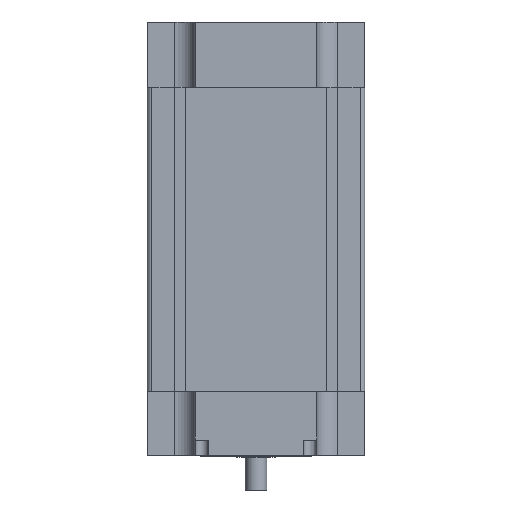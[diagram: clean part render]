
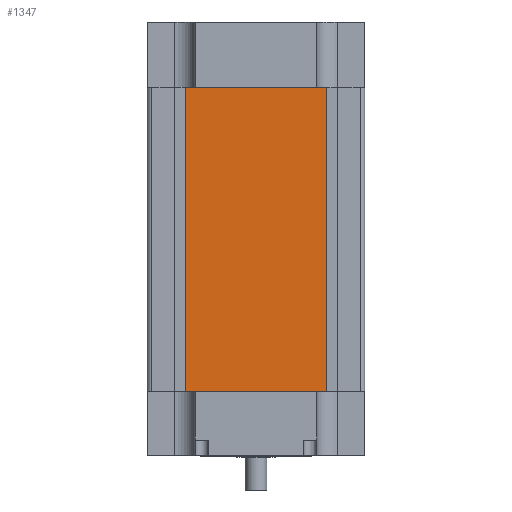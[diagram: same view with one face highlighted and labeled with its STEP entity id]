
A CAD part, front view. The second image highlights one B-rep face of the part: STEP entity #1347.
In plain terms, the highlighted planar face has unit normal (0, -1, 0).
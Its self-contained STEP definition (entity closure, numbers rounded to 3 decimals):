
#881 = VERTEX_POINT ( 'NONE', #4570 ) ;
#882 = VERTEX_POINT ( 'NONE', #4569 ) ;
#889 = EDGE_CURVE ( 'NONE', #881, #882, #4609, .T. ) ;
#1285 = EDGE_CURVE ( 'NONE', #1416, #881, #5308, .T. ) ;
#1288 = ORIENTED_EDGE ( 'NONE', *, *, #1346, .F. ) ;
#1346 = EDGE_CURVE ( 'NONE', #1409, #882, #5406, .T. ) ;
#1347 = ADVANCED_FACE ( 'NONE', ( #5444 ), #5449, .F. ) ;
#1349 = ORIENTED_EDGE ( 'NONE', *, *, #889, .T. ) ;
#1351 = ORIENTED_EDGE ( 'NONE', *, *, #1412, .F. ) ;
#1354 = ORIENTED_EDGE ( 'NONE', *, *, #1285, .T. ) ;
#1409 = VERTEX_POINT ( 'NONE', #5551 ) ;
#1412 = EDGE_CURVE ( 'NONE', #1416, #1409, #5525, .T. ) ;
#1416 = VERTEX_POINT ( 'NONE', #5589 ) ;
#3598 = EDGE_LOOP ( 'NONE', ( #1349, #1288, #1351, #1354 ) ) ;
#4569 = CARTESIAN_POINT ( 'NONE',  ( 65., -48.75, 0. ) ) ;
#4570 = CARTESIAN_POINT ( 'NONE',  ( -65., -48.75, 0. ) ) ;
#4606 = DIRECTION ( 'NONE',  ( 1., 0., 0. ) ) ;
#4607 = VECTOR ( 'NONE', #4606, 1000. ) ;
#4608 = CARTESIAN_POINT ( 'NONE',  ( -65., -48.75, 0. ) ) ;
#4609 = LINE ( 'NONE', #4608, #4607 ) ;
#5307 = CARTESIAN_POINT ( 'NONE',  ( -65., -48.75, 280. ) ) ;
#5308 = LINE ( 'NONE', #5307, #5363 ) ;
#5362 = DIRECTION ( 'NONE',  ( 0., 0., -1. ) ) ;
#5363 = VECTOR ( 'NONE', #5362, 1000. ) ;
#5406 = LINE ( 'NONE', #5442, #5441 ) ;
#5434 = DIRECTION ( 'NONE',  ( -1., 0., 0. ) ) ;
#5440 = DIRECTION ( 'NONE',  ( 0., 0., -1. ) ) ;
#5441 = VECTOR ( 'NONE', #5440, 1000. ) ;
#5442 = CARTESIAN_POINT ( 'NONE',  ( 65., -48.75, 280. ) ) ;
#5443 = DIRECTION ( 'NONE',  ( 0., 1., 0. ) ) ;
#5444 = FACE_OUTER_BOUND ( 'NONE', #3598, .T. ) ;
#5449 = PLANE ( 'NONE',  #5461 ) ;
#5450 = CARTESIAN_POINT ( 'NONE',  ( -65., -48.75, 280. ) ) ;
#5461 = AXIS2_PLACEMENT_3D ( 'NONE', #5450, #5443, #5434 ) ;
#5522 = DIRECTION ( 'NONE',  ( 1., 0., 0. ) ) ;
#5523 = VECTOR ( 'NONE', #5522, 1000. ) ;
#5524 = CARTESIAN_POINT ( 'NONE',  ( -65., -48.75, 280. ) ) ;
#5525 = LINE ( 'NONE', #5524, #5523 ) ;
#5551 = CARTESIAN_POINT ( 'NONE',  ( 65., -48.75, 280. ) ) ;
#5589 = CARTESIAN_POINT ( 'NONE',  ( -65., -48.75, 280. ) ) ;
